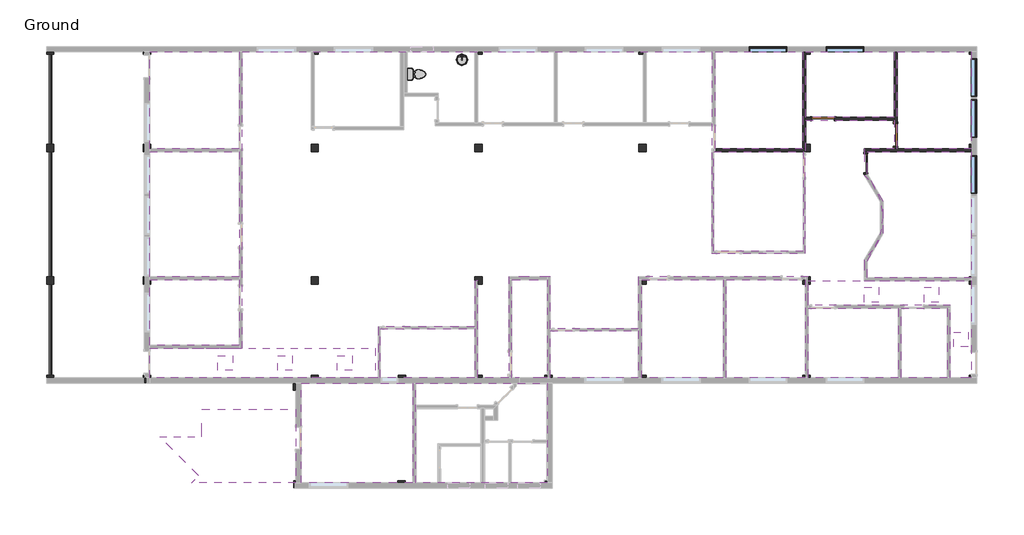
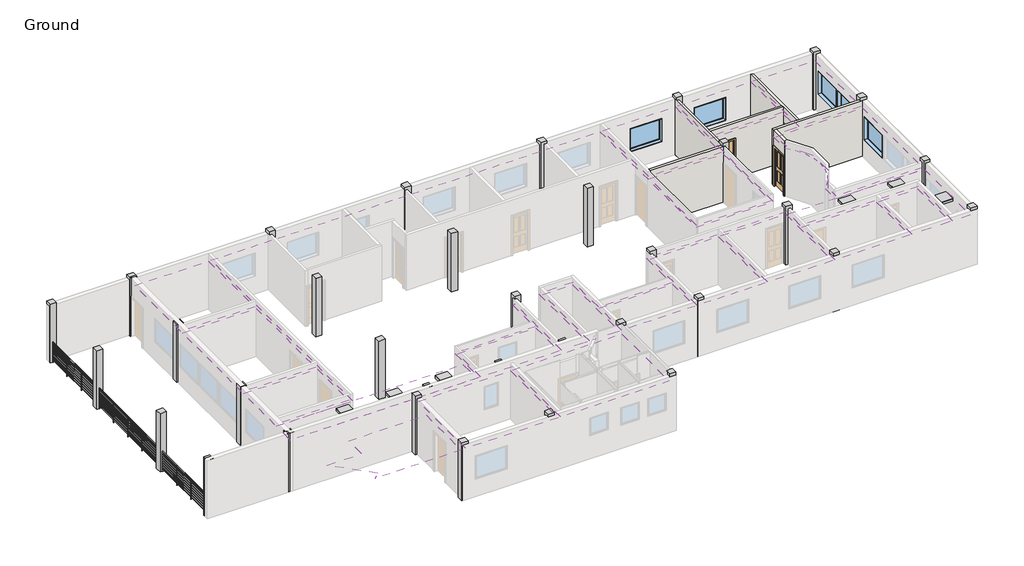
# One storey, part 4 of 4: 34 columns, 21 coverings, 6 light fixtures, 6 walls, 5 windows, 3 doors, 3 railings, 2 flow terminals.
"""IFC4 building model written with IfcOpenShell, lengths in millimetres."""

from ifc_helpers import new_model, si_unit, point, frame, frame_2d, origin, place, context, project, spatial, polyline, circle_curve, trimmed, segment, composite_curve, outline, extrude, faceted_brep, transform, mapped, element, save
from components import concrete_square_column_12_x_12_d780e21f, door_43f271b1, door_0f3f7c0c, door_bfc1a142, m_toilet_domestic_3d_m_toilet_domestic_3d_5cb52bd4, m_toilet_domestic_3d_m_toilet_domestic_3d_183bbd19, flow_terminal_5184717d, m_troffer_lens_0600_x_0600mm_2_lamp_a75f89fe, guardrail_pipe_4b02b070, guardrail_pipe_bb2e5a77, guardrail_pipe_0a43caf4, window_a0bf6c86

model = new_model("IFC4")

# Units and contexts
model_context = context("Model", 3, world=origin())
ifc_project = project(units=[si_unit("LENGTHUNIT", "METRE", prefix="MILLI")], contexts=[model_context])

# Site, building, storey
site = spatial("IfcSite", under=ifc_project)
building = spatial("IfcBuilding", under=site)
storey = spatial("IfcBuildingStorey", under=building, Name="Ground", Elevation=0.0)

# Columns
placement = place(None, origin())
concrete_square_column_12_x_12_shape = concrete_square_column_12_x_12_d780e21f(model_context)
element("IfcColumn", 1, ObjectType="Concrete-Square-Column : 12 x 12", at=placement, inside=storey, context=model_context, shape_type="MappedRepresentation", body=[
    mapped(concrete_square_column_12_x_12_shape, transform((-39928.402824, 22361.49779, 0.0), x_axis=(1.0, 0.0, 0.0), y_axis=(0.0, 1.0, 0.0), z_axis=(0.0, 0.0, 1.0))),
])
element("IfcColumn", 2, ObjectType="Concrete-Square-Column : 12 x 12", at=placement, inside=storey, context=model_context, shape_type="MappedRepresentation", body=[
    mapped(concrete_square_column_12_x_12_shape, transform((-33070.402824, 22361.49779, 0.0), x_axis=(1.0, 0.0, 0.0), y_axis=(0.0, 1.0, 0.0), z_axis=(0.0, 0.0, 1.0))),
])
element("IfcColumn", 3, ObjectType="Concrete-Square-Column : 12 x 12", at=placement, inside=storey, context=model_context, shape_type="MappedRepresentation", body=[
    mapped(concrete_square_column_12_x_12_shape, transform((-26364.802824, 22361.49779, 0.0), x_axis=(1.0, 0.0, 0.0), y_axis=(0.0, 1.0, 0.0), z_axis=(0.0, 0.0, 1.0))),
])
element("IfcColumn", 4, ObjectType="Concrete-Square-Column : 12 x 12", at=placement, inside=storey, context=model_context, shape_type="MappedRepresentation", body=[
    mapped(concrete_square_column_12_x_12_shape, transform((-19659.202824, 22361.49779, 0.0), x_axis=(1.0, 0.0, 0.0), y_axis=(0.0, 1.0, 0.0), z_axis=(0.0, 0.0, 1.0))),
])
element("IfcColumn", 5, ObjectType="Concrete-Square-Column : 12 x 12", at=placement, inside=storey, context=model_context, shape_type="MappedRepresentation", body=[
    mapped(concrete_square_column_12_x_12_shape, transform((-12953.602824, 22361.49779, 0.0), x_axis=(1.0, 0.0, 0.0), y_axis=(0.0, 1.0, 0.0), z_axis=(0.0, 0.0, 1.0))),
])
element("IfcColumn", 6, ObjectType="Concrete-Square-Column : 12 x 12", at=placement, inside=storey, context=model_context, shape_type="MappedRepresentation", body=[
    mapped(concrete_square_column_12_x_12_shape, transform((-6151.165324, 22361.49779, 0.0), x_axis=(1.0, 0.0, 0.0), y_axis=(0.0, 1.0, 0.0), z_axis=(0.0, 0.0, 1.0))),
])
element("IfcColumn", 7, ObjectType="Concrete-Square-Column : 12 x 12", at=placement, inside=storey, context=model_context, shape_type="MappedRepresentation", body=[
    mapped(concrete_square_column_12_x_12_shape, transform((-39928.402824, 18378.46029, 0.0), x_axis=(1.0, 0.0, 0.0), y_axis=(0.0, 1.0, 0.0), z_axis=(0.0, 0.0, 1.0))),
])
element("IfcColumn", 8, ObjectType="Concrete-Square-Column : 12 x 12", at=placement, inside=storey, context=model_context, shape_type="MappedRepresentation", body=[
    mapped(concrete_square_column_12_x_12_shape, transform((-39928.402824, 12965.08529, 0.0), x_axis=(1.0, 0.0, 0.0), y_axis=(0.0, 1.0, 0.0), z_axis=(0.0, 0.0, 1.0))),
])
element("IfcColumn", 9, ObjectType="Concrete-Square-Column : 12 x 12", at=placement, inside=storey, context=model_context, shape_type="MappedRepresentation", body=[
    mapped(concrete_square_column_12_x_12_shape, transform((-39928.402824, 8918.54779, 0.0), x_axis=(1.0, 0.0, 0.0), y_axis=(0.0, 1.0, 0.0), z_axis=(0.0, 0.0, 1.0))),
])
element("IfcColumn", 10, ObjectType="Concrete-Square-Column : 12 x 12", at=placement, inside=storey, context=model_context, shape_type="MappedRepresentation", body=[
    mapped(concrete_square_column_12_x_12_shape, transform((-33070.402824, 8918.54779, 0.0), x_axis=(1.0, 0.0, 0.0), y_axis=(0.0, 1.0, 0.0), z_axis=(0.0, 0.0, 1.0))),
])
element("IfcColumn", 11, ObjectType="Concrete-Square-Column : 12 x 12", at=placement, inside=storey, context=model_context, shape_type="MappedRepresentation", body=[
    mapped(concrete_square_column_12_x_12_shape, transform((-33070.402824, 12965.08529, 0.0), x_axis=(1.0, 0.0, 0.0), y_axis=(0.0, 1.0, 0.0), z_axis=(0.0, 0.0, 1.0))),
])
element("IfcColumn", 12, ObjectType="Concrete-Square-Column : 12 x 12", at=placement, inside=storey, context=model_context, shape_type="MappedRepresentation", body=[
    mapped(concrete_square_column_12_x_12_shape, transform((-26364.802824, 12965.08529, 0.0), x_axis=(1.0, 0.0, 0.0), y_axis=(0.0, 1.0, 0.0), z_axis=(0.0, 0.0, 1.0))),
])
element("IfcColumn", 13, ObjectType="Concrete-Square-Column : 12 x 12", at=placement, inside=storey, context=model_context, shape_type="MappedRepresentation", body=[
    mapped(concrete_square_column_12_x_12_shape, transform((-26364.802824, 8918.54779, 0.0), x_axis=(1.0, 0.0, 0.0), y_axis=(0.0, 1.0, 0.0), z_axis=(0.0, 0.0, 1.0))),
])
element("IfcColumn", 14, ObjectType="Concrete-Square-Column : 12 x 12", at=placement, inside=storey, context=model_context, shape_type="MappedRepresentation", body=[
    mapped(concrete_square_column_12_x_12_shape, transform((-19659.202824, 8918.54779, 0.0), x_axis=(1.0, 0.0, 0.0), y_axis=(0.0, 1.0, 0.0), z_axis=(0.0, 0.0, 1.0))),
])
element("IfcColumn", 15, ObjectType="Concrete-Square-Column : 12 x 12", at=placement, inside=storey, context=model_context, shape_type="MappedRepresentation", body=[
    mapped(concrete_square_column_12_x_12_shape, transform((-19659.202824, 12965.08529, 0.0), x_axis=(1.0, 0.0, 0.0), y_axis=(0.0, 1.0, 0.0), z_axis=(0.0, 0.0, 1.0))),
])
element("IfcColumn", 16, ObjectType="Concrete-Square-Column : 12 x 12", at=placement, inside=storey, context=model_context, shape_type="MappedRepresentation", body=[
    mapped(concrete_square_column_12_x_12_shape, transform((-12953.602824, 12965.08529, 0.0), x_axis=(1.0, 0.0, 0.0), y_axis=(0.0, 1.0, 0.0), z_axis=(0.0, 0.0, 1.0))),
])
element("IfcColumn", 17, ObjectType="Concrete-Square-Column : 12 x 12", at=placement, inside=storey, context=model_context, shape_type="MappedRepresentation", body=[
    mapped(concrete_square_column_12_x_12_shape, transform((-12953.602824, 8918.54779, 0.0), x_axis=(1.0, 0.0, 0.0), y_axis=(0.0, 1.0, 0.0), z_axis=(0.0, 0.0, 1.0))),
])
element("IfcColumn", 18, ObjectType="Concrete-Square-Column : 12 x 12", at=placement, inside=storey, context=model_context, shape_type="MappedRepresentation", body=[
    mapped(concrete_square_column_12_x_12_shape, transform((-6151.165324, 8918.54779, 0.0), x_axis=(1.0, 0.0, 0.0), y_axis=(0.0, 1.0, 0.0), z_axis=(0.0, 0.0, 1.0))),
])
element("IfcColumn", 19, ObjectType="Concrete-Square-Column : 12 x 12", at=placement, inside=storey, context=model_context, shape_type="MappedRepresentation", body=[
    mapped(concrete_square_column_12_x_12_shape, transform((-6151.165324, 12965.08529, 0.0), x_axis=(1.0, 0.0, 0.0), y_axis=(0.0, 1.0, 0.0), z_axis=(0.0, 0.0, 1.0))),
])
element("IfcColumn", 20, ObjectType="Concrete-Square-Column : 12 x 12", at=placement, inside=storey, context=model_context, shape_type="MappedRepresentation", body=[
    mapped(concrete_square_column_12_x_12_shape, transform((-6151.165324, 18378.46029, 0.0), x_axis=(1.0, 0.0, 0.0), y_axis=(0.0, 1.0, 0.0), z_axis=(0.0, 0.0, 1.0))),
])
element("IfcColumn", 21, ObjectType="Concrete-Square-Column : 12 x 12", at=placement, inside=storey, context=model_context, shape_type="MappedRepresentation", body=[
    mapped(concrete_square_column_12_x_12_shape, transform((-12953.602824, 18378.46029, 0.0), x_axis=(1.0, 0.0, 0.0), y_axis=(0.0, 1.0, 0.0), z_axis=(0.0, 0.0, 1.0))),
])
element("IfcColumn", 22, ObjectType="Concrete-Square-Column : 12 x 12", at=placement, inside=storey, context=model_context, shape_type="MappedRepresentation", body=[
    mapped(concrete_square_column_12_x_12_shape, transform((-19659.202824, 18378.46029, 0.0), x_axis=(1.0, 0.0, 0.0), y_axis=(0.0, 1.0, 0.0), z_axis=(0.0, 0.0, 1.0))),
])
element("IfcColumn", 23, ObjectType="Concrete-Square-Column : 12 x 12", at=placement, inside=storey, context=model_context, shape_type="MappedRepresentation", body=[
    mapped(concrete_square_column_12_x_12_shape, transform((-26364.802824, 18378.46029, 0.0), x_axis=(1.0, 0.0, 0.0), y_axis=(0.0, 1.0, 0.0), z_axis=(0.0, 0.0, 1.0))),
])
element("IfcColumn", 24, ObjectType="Concrete-Square-Column : 12 x 12", at=placement, inside=storey, context=model_context, shape_type="MappedRepresentation", body=[
    mapped(concrete_square_column_12_x_12_shape, transform((-33070.402824, 18378.46029, 0.0), x_axis=(1.0, 0.0, 0.0), y_axis=(0.0, 1.0, 0.0), z_axis=(0.0, 0.0, 1.0))),
])
element("IfcColumn", 25, ObjectType="Concrete-Square-Column : 12 x 12", at=placement, inside=storey, context=model_context, shape_type="MappedRepresentation", body=[
    mapped(concrete_square_column_12_x_12_shape, transform((-43890.802824, 8918.54779, 0.0), x_axis=(1.0, 0.0, 0.0), y_axis=(0.0, 1.0, 0.0), z_axis=(0.0, 0.0, 1.0))),
])
element("IfcColumn", 26, ObjectType="Concrete-Square-Column : 12 x 12", at=placement, inside=storey, context=model_context, shape_type="MappedRepresentation", body=[
    mapped(concrete_square_column_12_x_12_shape, transform((-43890.802824, 12965.08529, 0.0), x_axis=(1.0, 0.0, 0.0), y_axis=(0.0, 1.0, 0.0), z_axis=(0.0, 0.0, 1.0))),
])
element("IfcColumn", 27, ObjectType="Concrete-Square-Column : 12 x 12", at=placement, inside=storey, context=model_context, shape_type="MappedRepresentation", body=[
    mapped(concrete_square_column_12_x_12_shape, transform((-43890.802824, 18378.46029, 0.0), x_axis=(1.0, 0.0, 0.0), y_axis=(0.0, 1.0, 0.0), z_axis=(0.0, 0.0, 1.0))),
])
element("IfcColumn", 28, ObjectType="Concrete-Square-Column : 12 x 12", at=placement, inside=storey, context=model_context, shape_type="MappedRepresentation", body=[
    mapped(concrete_square_column_12_x_12_shape, transform((-43890.802824, 22361.49779, 0.0), x_axis=(1.0, 0.0, 0.0), y_axis=(0.0, 1.0, 0.0), z_axis=(0.0, 0.0, 1.0))),
])
element("IfcColumn", 29, ObjectType="Concrete-Square-Column : 12 x 12", at=placement, inside=storey, context=model_context, shape_type="MappedRepresentation", body=[
    mapped(concrete_square_column_12_x_12_shape, transform((-23512.065324, 8918.54779, 0.0), x_axis=(1.0, 0.0, 0.0), y_axis=(0.0, 1.0, 0.0), z_axis=(0.0, 0.0, 1.0))),
])
element("IfcColumn", 30, ObjectType="Concrete-Square-Column : 12 x 12", at=placement, inside=storey, context=model_context, shape_type="MappedRepresentation", body=[
    mapped(concrete_square_column_12_x_12_shape, transform((-23512.065324, 4621.18529, 0.0), x_axis=(1.0, 0.0, 0.0), y_axis=(0.0, 1.0, 0.0), z_axis=(0.0, 0.0, 1.0))),
])
element("IfcColumn", 31, ObjectType="Concrete-Square-Column : 12 x 12", at=placement, inside=storey, context=model_context, shape_type="MappedRepresentation", body=[
    mapped(concrete_square_column_12_x_12_shape, transform((-29508.052824, 8918.54779, 0.0), x_axis=(1.0, 0.0, 0.0), y_axis=(0.0, 1.0, 0.0), z_axis=(0.0, 0.0, 1.0))),
])
element("IfcColumn", 32, ObjectType="Concrete-Square-Column : 12 x 12", at=placement, inside=storey, context=model_context, shape_type="MappedRepresentation", body=[
    mapped(concrete_square_column_12_x_12_shape, transform((-33791.127824, 8613.74779, 0.0), x_axis=(1.0, 0.0, 0.0), y_axis=(0.0, 1.0, 0.0), z_axis=(0.0, 0.0, 1.0))),
])
element("IfcColumn", 33, ObjectType="Concrete-Square-Column : 12 x 12", at=placement, inside=storey, context=model_context, shape_type="MappedRepresentation", body=[
    mapped(concrete_square_column_12_x_12_shape, transform((-29516.8878988, 4621.18529, 0.0), x_axis=(1.0, 0.0, 0.0), y_axis=(0.0, 1.0, 0.0), z_axis=(0.0, 0.0, 1.0))),
])
element("IfcColumn", 34, ObjectType="Concrete-Square-Column : 12 x 12", at=placement, inside=storey, context=model_context, shape_type="MappedRepresentation", body=[
    mapped(concrete_square_column_12_x_12_shape, transform((-33784.0878988, 4621.18529, 0.0), x_axis=(1.0, 0.0, 0.0), y_axis=(0.0, 1.0, 0.0), z_axis=(0.0, 0.0, 1.0))),
])

# Coverings
element("IfcCovering", 35, ObjectType="2' x 4' ACT System", at=placement, inside=storey, context=model_context, shape_type="SweptSolid", body=[
    extrude(outline(polyline([(-39818.865324, 18349.88529), (-39818.865324, 22307.52279), (-36166.027824, 22307.52279), (-36166.027824, 18349.88529), (-39818.865324, 18349.88529)])), frame((0.0, 0.0, 2514.6), z_axis=(0.0, 0.0, 1.0), x_axis=(1.0, 0.0, 0.0)), (0.0, 0.0, 1.0), 57.15),
])
element("IfcCovering", 36, ObjectType="2' x 4' ACT System", at=placement, inside=storey, context=model_context, shape_type="SweptSolid", body=[
    extrude(outline(polyline([(-36166.027824, 13117.48529), (-39818.865324, 13117.48529), (-39818.865324, 18226.06029), (-36166.027824, 18226.06029), (-36166.027824, 13117.48529)])), frame((0.0, 0.0, 2514.6), z_axis=(0.0, 0.0, 1.0), x_axis=(1.0, 0.0, 0.0)), (0.0, 0.0, 1.0), 57.15),
])
element("IfcCovering", 37, ObjectType="2' x 4' ACT System", at=placement, inside=storey, context=model_context, shape_type="SweptSolid", body=[
    extrude(outline(polyline([(-36166.027824, 10304.9644567), (-39818.865324, 10304.9644567), (-39818.865324, 12993.66029), (-36166.027824, 12993.66029), (-36166.027824, 10304.9644567)])), frame((0.0, 0.0, 2514.6), z_axis=(0.0, 0.0, 1.0), x_axis=(1.0, 0.0, 0.0)), (0.0, 0.0, 1.0), 57.15),
])
element("IfcCovering", 38, ObjectType="2' x 4' ACT System", at=placement, inside=storey, context=model_context, shape_type="SweptSolid", body=[
    extrude(outline(polyline([(-16688.990324, 22307.52279), (-13106.002824, 22307.52279), (-13106.002824, 18343.53529), (-16688.990324, 18343.53529), (-16688.990324, 22307.52279)])), frame((0.0, 0.0, 2514.6), z_axis=(0.0, 0.0, 1.0), x_axis=(1.0, 0.0, 0.0)), (0.0, 0.0, 1.0), 57.15),
])
element("IfcCovering", 39, ObjectType="2' x 4' ACT System", at=placement, inside=storey, context=model_context, shape_type="SweptSolid", body=[
    extrude(outline(polyline([(-12982.177824, 22307.52279), (-9372.202824, 22307.52279), (-9372.202824, 19632.58529), (-12982.177824, 19632.58529), (-12982.177824, 22307.52279)])), frame((0.0, 0.0, 2514.6), z_axis=(0.0, 0.0, 1.0), x_axis=(1.0, 0.0, 0.0)), (0.0, 0.0, 1.0), 57.15),
])
element("IfcCovering", 40, ObjectType="2' x 4' ACT System", at=placement, inside=storey, context=model_context, shape_type="SweptSolid", body=[
    extrude(outline(polyline([(-9248.377824, 22307.52279), (-6205.140324, 22307.52279), (-6205.140324, 18343.53529), (-9248.377824, 18343.53529), (-9248.377824, 22307.52279)])), frame((0.0, 0.0, 2514.6), z_axis=(0.0, 0.0, 1.0), x_axis=(1.0, 0.0, 0.0)), (0.0, 0.0, 1.0), 57.15),
])
element("IfcCovering", 41, ObjectType="2' x 4' ACT System", at=placement, inside=storey, context=model_context, shape_type="SweptSolid", body=[
    extrude(outline(composite_curve([segment(polyline([(-10467.577824, 18219.71029), (-6205.140324, 18219.71029), (-6205.140324, 13073.03529), (-10467.577824, 13073.03529), (-10467.577824, 13753.2813276)]), True, "CONTINUOUS"), segment(trimmed(circle_curve(frame_2d((-12218.244142, 15538.42279)), 2500.3125), [point((-10467.577824, 13753.2813276))], [point((-10467.577824, 17323.5642525))], True, "CARTESIAN"), True, "CONTINUOUS"), segment(polyline([(-10467.577824, 17323.5642525), (-10467.577824, 18219.71029)]), True, "CONTINUOUS")], self_intersect=False)), frame((0.0, 0.0, 2514.6), z_axis=(0.0, 0.0, 1.0), x_axis=(1.0, 0.0, 0.0)), (0.0, 0.0, 1.0), 57.15),
])
element("IfcCovering", 42, ObjectType="2' x 4' ACT System", at=placement, inside=storey, context=model_context, shape_type="SweptSolid", body=[
    extrude(outline(polyline([(-16741.377824, 14150.94779), (-16741.377824, 18219.71029), (-13083.777824, 18219.71029), (-13083.777824, 14150.94779), (-16741.377824, 14150.94779)])), frame((0.0, 0.0, 2514.6), z_axis=(0.0, 0.0, 1.0), x_axis=(1.0, 0.0, 0.0)), (0.0, 0.0, 1.0), 57.15),
])
element("IfcCovering", 43, ObjectType="2' x 4' ACT System", at=placement, inside=storey, context=model_context, shape_type="SweptSolid", body=[
    extrude(outline(polyline([(-16231.790324, 12993.66029), (-13015.515324, 12993.66029), (-13015.515324, 8972.52279), (-16231.790324, 8972.52279), (-16231.790324, 12993.66029)])), frame((0.0, 0.0, 2514.6), z_axis=(0.0, 0.0, 1.0), x_axis=(1.0, 0.0, 0.0)), (0.0, 0.0, 1.0), 57.15),
])
element("IfcCovering", 44, ObjectType="2' x 4' ACT System", at=placement, inside=storey, context=model_context, shape_type="SweptSolid", body=[
    extrude(outline(polyline([(-19703.652824, 12993.66029), (-16355.615324, 12993.66029), (-16355.615324, 8972.52279), (-19703.652824, 8972.52279), (-19703.652824, 12993.66029)])), frame((0.0, 0.0, 2514.6), z_axis=(0.0, 0.0, 1.0), x_axis=(1.0, 0.0, 0.0)), (0.0, 0.0, 1.0), 57.15),
])
element("IfcCovering", 45, ObjectType="2' x 4' ACT System", at=placement, inside=storey, context=model_context, shape_type="SweptSolid", body=[
    extrude(outline(polyline([(-9207.102824, 8972.52279), (-12891.690324, 8972.52279), (-12891.690324, 11818.91029), (-9207.102824, 11818.91029), (-9207.102824, 8972.52279)])), frame((0.0, 0.0, 2514.6), z_axis=(0.0, 0.0, 1.0), x_axis=(1.0, 0.0, 0.0)), (0.0, 0.0, 1.0), 57.15),
])
element("IfcCovering", 46, ObjectType="2' x 4' ACT System", at=placement, inside=storey, context=model_context, shape_type="SweptSolid", body=[
    extrude(outline(polyline([(-7195.740324, 8972.52279), (-9083.277824, 8972.52279), (-9083.277824, 11818.91029), (-7195.740324, 11818.91029), (-7195.740324, 8972.52279)])), frame((0.0, 0.0, 2514.6), z_axis=(0.0, 0.0, 1.0), x_axis=(1.0, 0.0, 0.0)), (0.0, 0.0, 1.0), 57.15),
])
element("IfcCovering", 47, ObjectType="2' x 4' ACT System", at=placement, inside=storey, context=model_context, shape_type="SweptSolid", body=[
    extrude(outline(polyline([(-23432.690324, 10894.98529), (-19827.477824, 10894.98529), (-19827.477824, 8972.52279), (-23432.690324, 8972.52279), (-23432.690324, 10894.98529)])), frame((0.0, 0.0, 2514.6), z_axis=(0.0, 0.0, 1.0), x_axis=(1.0, 0.0, 0.0)), (0.0, 0.0, 1.0), 57.15),
])
element("IfcCovering", 48, ObjectType="2' x 4' ACT System", at=placement, inside=storey, context=model_context, shape_type="SweptSolid", body=[
    extrude(outline(polyline([(-25020.190324, 12993.66029), (-23556.515324, 12993.66029), (-23556.515324, 8972.52279), (-24701.102824, 8972.52279), (-25020.190324, 8972.52279), (-25020.190324, 12993.66029)])), frame((0.0, 0.0, 2514.6), z_axis=(0.0, 0.0, 1.0), x_axis=(1.0, 0.0, 0.0)), (0.0, 0.0, 1.0), 57.15),
])
element("IfcCovering", 49, ObjectType="2' x 4' ACT System", at=placement, inside=storey, context=model_context, shape_type="SweptSolid", body=[
    extrude(outline(polyline([(-30397.052824, 10987.06029), (-26533.077824, 10987.06029), (-26533.077824, 8972.52279), (-30397.052824, 8972.52279), (-30397.052824, 10987.06029)])), frame((0.0, 0.0, 2514.6), z_axis=(0.0, 0.0, 1.0), x_axis=(1.0, 0.0, 0.0)), (0.0, 0.0, 1.0), 57.15),
])
element("IfcCovering", 50, ObjectType="2' x 4' ACT System", at=placement, inside=storey, context=model_context, shape_type="SweptSolid", body=[
    extrude(outline(polyline([(-29065.140324, 8753.44779), (-29065.140324, 4675.16029), (-33632.377824, 4675.16029), (-33632.377824, 8753.44779), (-29065.140324, 8753.44779)])), frame((0.0, 0.0, 2514.6), z_axis=(0.0, 0.0, 1.0), x_axis=(1.0, 0.0, 0.0)), (0.0, 0.0, 1.0), 57.15),
])
element("IfcCovering", 51, ObjectType="2' x 4' ACT System", at=placement, inside=storey, context=model_context, shape_type="SweptSolid", body=[
    extrude(outline(polyline([(-33853.040324, 7686.64779), (-33853.040324, 4675.16029), (-38096.1227235, 4675.16029), (-37812.8000173, 4958.4829962), (-39418.5074722, 6564.1904511), (-37685.265324, 6564.1904511), (-37685.265324, 7686.64779), (-33853.040324, 7686.64779)])), frame((0.0, 0.0, 2514.6), z_axis=(0.0, 0.0, 1.0), x_axis=(1.0, 0.0, 0.0)), (0.0, 0.0, 1.0), 57.15),
])
element("IfcCovering", 52, ObjectType="2' x 4' ACT System", at=placement, inside=storey, context=model_context, shape_type="SweptSolid", body=[
    extrude(outline(polyline([(-12891.690324, 12949.21029), (-6205.140324, 12949.21029), (-6205.140324, 8972.52279), (-7071.915324, 8972.52279), (-7071.915324, 11942.73529), (-12891.690324, 11942.73529), (-12891.690324, 12949.21029)]), holes=[polyline([(-9992.2426179, 12673.77904), (-10592.2426179, 12673.77904), (-10592.2426179, 12073.77904), (-9992.2426179, 12073.77904), (-9992.2426179, 12673.77904)]), polyline([(-7544.2426179, 12673.77904), (-8144.2426179, 12673.77904), (-8144.2426179, 12073.77904), (-7544.2426179, 12073.77904), (-7544.2426179, 12673.77904)]), polyline([(-6334.6426179, 10844.97904), (-6934.6426179, 10844.97904), (-6934.6426179, 10244.97904), (-6334.6426179, 10244.97904), (-6334.6426179, 10844.97904)])]), frame((0.0, 0.0, 2514.6), z_axis=(0.0, 0.0, 1.0), x_axis=(1.0, 0.0, 0.0)), (0.0, 0.0, 1.0), 57.15),
])
element("IfcCovering", 53, ObjectType="2' x 4' ACT System", at=placement, inside=storey, context=model_context, shape_type="SweptSolid", body=[
    extrude(outline(polyline([(-30589.140324, 10181.1394567), (-30589.140324, 8972.52279), (-39818.865324, 8972.52279), (-39818.865324, 10181.1394567), (-30589.140324, 10181.1394567)]), holes=[polyline([(-33981.627824, 9877.32279), (-34581.627824, 9877.32279), (-34581.627824, 9277.32279), (-33981.627824, 9277.32279), (-33981.627824, 9877.32279)]), polyline([(-31543.227824, 9877.32279), (-32143.227824, 9877.32279), (-32143.227824, 9277.32279), (-31543.227824, 9277.32279), (-31543.227824, 9877.32279)]), polyline([(-36432.802824, 9881.5561234), (-37032.802824, 9881.5561234), (-37032.802824, 9281.5561234), (-36432.802824, 9281.5561234), (-36432.802824, 9881.5561234)])]), frame((0.0, 0.0, 2514.6), z_axis=(0.0, 0.0, 1.0), x_axis=(1.0, 0.0, 0.0)), (0.0, 0.0, 1.0), 57.15),
])
element("IfcCovering", 54, ObjectType="2' x 4' ACT System", at=placement, inside=storey, context=model_context, shape_type="SweptSolid", body=[
    extrude(outline(polyline([(-23566.040324, 8753.44779), (-23566.040324, 4675.16029), (-28941.315324, 4675.16029), (-28941.315324, 8753.44779), (-23566.040324, 8753.44779)])), frame((0.0, 0.0, 2514.6), z_axis=(0.0, 0.0, 1.0), x_axis=(1.0, 0.0, 0.0)), (0.0, 0.0, 1.0), 57.15),
])
element("IfcCovering", 55, ObjectType="2' x 4' ACT System", at=placement, inside=storey, context=model_context, shape_type="SweptSolid", body=[
    extrude(outline(composite_curve([segment(polyline([(-30476.427824, 8972.52279), (-39818.865324, 8972.52279), (-39818.865324, 10181.1394567), (-36042.202824, 10181.1394567), (-36042.202824, 22307.52279), (-16820.752824, 22307.52279), (-16820.752824, 14071.57279), (-13004.402824, 14071.57279), (-13004.402824, 18281.62279), (-12982.177824, 18281.62279), (-12982.177824, 19508.76029), (-9372.202824, 19508.76029), (-9372.202824, 18343.53529), (-10591.402824, 18343.53529), (-10591.402824, 17270.785386)]), True, "CONTINUOUS"), segment(trimmed(circle_curve(frame_2d((-12218.244142, 15538.42279)), 2376.4875), [point((-10591.402824, 17270.785386))], [point((-10591.402824, 13806.060194))], False, "CARTESIAN"), True, "CONTINUOUS"), segment(polyline([(-10591.402824, 13806.060194), (-10591.402824, 12949.21029), (-6205.140324, 12949.21029), (-6205.140324, 8972.52279), (-7071.915324, 8972.52279), (-7071.915324, 11942.73529), (-12891.690324, 11942.73529), (-12891.690324, 13117.48529), (-19827.477824, 13117.48529), (-19827.477824, 10974.36029), (-23432.690324, 10974.36029), (-23432.690324, 13117.48529), (-25144.015324, 13117.48529), (-25144.015324, 8972.52279), (-26409.252824, 8972.52279), (-26409.252824, 12947.62279), (-26533.077824, 12947.62279), (-26533.077824, 11066.43529), (-30476.427824, 11066.43529), (-30476.427824, 8972.52279)]), True, "CONTINUOUS")], self_intersect=False)), frame((0.0, 0.0, 2514.6), z_axis=(0.0, 0.0, 1.0), x_axis=(1.0, 0.0, 0.0)), (0.0, 0.0, 1.0), 57.15),
])

# Doors
door_shape = door_43f271b1(model_context)
element("IfcDoor", 56, ObjectType="Single-Flush : 36\" x 80\" - D1", at=placement, inside=storey, context=model_context, shape_type="MappedRepresentation", body=[
    mapped(door_shape, transform((-9310.290324, 18910.27279, 0.0), x_axis=(0.0, -1.0, 0.0), y_axis=(1.0, 0.0, 0.0), z_axis=(0.0, 0.0, 1.0))),
])
door_2_shape = door_0f3f7c0c(model_context)
element("IfcDoor", 57, ObjectType="Single-Flush : 36\" x 80\" - D1", at=placement, inside=storey, context=model_context, shape_type="MappedRepresentation", body=[
    mapped(door_2_shape, transform((-12274.152824, 19570.67279, 0.0), x_axis=(-1.0, 0.0, 0.0), y_axis=(0.0, -1.0, 0.0), z_axis=(0.0, 0.0, 1.0))),
])
door_3_shape = door_bfc1a142(model_context)
element("IfcDoor", 58, ObjectType="Single-Glass 3 : 30\" x 80\" - D3", at=placement, inside=storey, context=model_context, shape_type="MappedRepresentation", body=[
    mapped(door_3_shape, transform((-10529.490324, 17754.57279, 0.0), x_axis=(0.0, 1.0, 0.0), y_axis=(-1.0, 0.0, 0.0), z_axis=(0.0, 0.0, 1.0))),
])

# Flow terminals
m_toilet_domestic_3d_m_toilet_domestic_3d_shape = m_toilet_domestic_3d_m_toilet_domestic_3d_5cb52bd4(model_context)
m_toilet_domestic_3d_m_toilet_domestic_3d_2_shape = m_toilet_domestic_3d_m_toilet_domestic_3d_183bbd19(model_context)
element("IfcFlowTerminal", 59, ObjectType="M_Toilet-Domestic-3D : M_Toilet-Domestic-3D", at=placement, inside=storey, context=model_context, shape_type="MappedRepresentation", body=[
    mapped(m_toilet_domestic_3d_m_toilet_domestic_3d_shape, transform((-28830.190324, 21393.12279, 0.0), x_axis=(0.0, 1.0, 0.0), y_axis=(-1.0, 0.0, 0.0), z_axis=(0.0, 0.0, 1.0))),
    mapped(m_toilet_domestic_3d_m_toilet_domestic_3d_2_shape, transform((-28830.190324, 21393.12279, 0.0), x_axis=(0.0, 1.0, 0.0), y_axis=(-1.0, 0.0, 0.0), z_axis=(0.0, 0.0, 1.0))),
])
flow_terminal_shape = flow_terminal_5184717d(model_context)
element("IfcFlowTerminal", 60, ObjectType="Sink Vanity-Round : 19\" x 19\"", at=placement, inside=storey, context=model_context, shape_type="MappedRepresentation", body=[
    mapped(flow_terminal_shape, transform((-27147.2545646, 21903.5734981, 0.0), x_axis=(1.0, 0.0, 0.0), y_axis=(0.0, 1.0, 0.0), z_axis=(0.0, 0.0, 1.0))),
])

# Light fixtures
m_troffer_lens_0600_x_0600mm_2_lamp_shape = m_troffer_lens_0600_x_0600mm_2_lamp_a75f89fe(model_context)
element("IfcLightFixture", 61, ObjectType="M_Troffer - Lens : 0600 x 0600mm (2 Lamp)", at=placement, inside=storey, context=model_context, shape_type="MappedRepresentation", body=[
    mapped(m_troffer_lens_0600_x_0600mm_2_lamp_shape, transform((-34262.9243225, 9636.7887221, 76.2), x_axis=(1.0, 0.0, 0.0), y_axis=(0.0, 1.0, 0.0), z_axis=(0.0, 0.0, 1.0))),
])
element("IfcLightFixture", 62, ObjectType="M_Troffer - Lens : 0600 x 0600mm (2 Lamp)", at=placement, inside=storey, context=model_context, shape_type="MappedRepresentation", body=[
    mapped(m_troffer_lens_0600_x_0600mm_2_lamp_shape, transform((-31824.5243225, 9636.7887221, 76.2), x_axis=(1.0, 0.0, 0.0), y_axis=(0.0, 1.0, 0.0), z_axis=(0.0, 0.0, 1.0))),
])
element("IfcLightFixture", 63, ObjectType="M_Troffer - Lens : 0600 x 0600mm (2 Lamp)", at=placement, inside=storey, context=model_context, shape_type="MappedRepresentation", body=[
    mapped(m_troffer_lens_0600_x_0600mm_2_lamp_shape, transform((-36714.0993225, 9641.0220555, 76.2), x_axis=(1.0, 0.0, 0.0), y_axis=(0.0, 1.0, 0.0), z_axis=(0.0, 0.0, 1.0))),
])
element("IfcLightFixture", 64, ObjectType="M_Troffer - Lens : 0600 x 0600mm (2 Lamp)", at=placement, inside=storey, context=model_context, shape_type="MappedRepresentation", body=[
    mapped(m_troffer_lens_0600_x_0600mm_2_lamp_shape, transform((-10273.5391163, 12433.2449721, 76.2), x_axis=(1.0, 0.0, 0.0), y_axis=(0.0, 1.0, 0.0), z_axis=(0.0, 0.0, 1.0))),
])
element("IfcLightFixture", 65, ObjectType="M_Troffer - Lens : 0600 x 0600mm (2 Lamp)", at=placement, inside=storey, context=model_context, shape_type="MappedRepresentation", body=[
    mapped(m_troffer_lens_0600_x_0600mm_2_lamp_shape, transform((-7825.5391163, 12433.2449721, 76.2), x_axis=(1.0, 0.0, 0.0), y_axis=(0.0, 1.0, 0.0), z_axis=(0.0, 0.0, 1.0))),
])
element("IfcLightFixture", 66, ObjectType="M_Troffer - Lens : 0600 x 0600mm (2 Lamp)", at=placement, inside=storey, context=model_context, shape_type="MappedRepresentation", body=[
    mapped(m_troffer_lens_0600_x_0600mm_2_lamp_shape, transform((-6615.9391163, 10604.4449721, 76.2), x_axis=(1.0, 0.0, 0.0), y_axis=(0.0, 1.0, 0.0), z_axis=(0.0, 0.0, 1.0))),
])

# Railings
guardrail_pipe_shape = guardrail_pipe_4b02b070(model_context)
element("IfcRailing", 67, ObjectType="Guardrail - Pipe", at=placement, inside=storey, context=model_context, shape_type="MappedRepresentation", body=[
    mapped(guardrail_pipe_shape, transform((0.0, 0.0, 0.0), x_axis=(1.0, 0.0, 0.0), y_axis=(0.0, 1.0, 0.0), z_axis=(0.0, 0.0, 1.0))),
])
guardrail_pipe_2_shape = guardrail_pipe_bb2e5a77(model_context)
element("IfcRailing", 68, ObjectType="Guardrail - Pipe", at=placement, inside=storey, context=model_context, shape_type="MappedRepresentation", body=[
    mapped(guardrail_pipe_2_shape, transform((0.0, 0.0, 0.0), x_axis=(1.0, 0.0, 0.0), y_axis=(0.0, 1.0, 0.0), z_axis=(0.0, 0.0, 1.0))),
])
guardrail_pipe_3_shape = guardrail_pipe_0a43caf4(model_context)
element("IfcRailing", 69, ObjectType="Guardrail - Pipe", at=placement, inside=storey, context=model_context, shape_type="MappedRepresentation", body=[
    mapped(guardrail_pipe_3_shape, transform((0.0, 0.0, 0.0), x_axis=(1.0, 0.0, 0.0), y_axis=(0.0, 1.0, 0.0), z_axis=(0.0, 0.0, 1.0))),
])

# Walls
element("IfcWall", 70, ObjectType="Interior - 5 1/2\" Partition (1-hr)", at=placement, inside=storey, context=model_context, shape_type="Brep", body=[
    faceted_brep([(-6205.140324, 18343.53529, 0.0), (-9248.377824, 18343.53529, 0.0), (-9372.202824, 18343.53529, 0.0), (-10591.402824, 18343.53529, 0.0), (-10591.402824, 18343.53529, 2895.6), (-9372.202824, 18343.53529, 2895.6), (-9248.377824, 18343.53529, 2895.6), (-6205.140324, 18343.53529, 2895.6), (-6205.140324, 18219.71029, 0.0), (-6205.140324, 18219.71029, 2895.6), (-10467.577824, 18219.71029, 2895.6), (-10591.402824, 18219.71029, 2895.6), (-10591.402824, 18219.71029, 0.0), (-10467.577824, 18219.71029, 0.0)], [[[0, 1, 2, 3, 4, 5, 6, 7]], [[8, 9, 10, 11, 12, 13]], [[3, 2, 1, 0, 8, 13, 12]], [[7, 6, 5, 4, 11, 10, 9]], [[4, 3, 12, 11]], [[0, 7, 9, 8]]]),
])
element("IfcWall", 71, ObjectType="Interior - 5 1/2\" Partition (1-hr)", at=placement, inside=storey, context=model_context, shape_type="Brep", body=[
    faceted_brep([(-12982.177824, 18343.53529, 0.0), (-13106.002824, 18343.53529, 0.0), (-16688.990324, 18343.53529, 0.0), (-16688.990324, 18343.53529, 2895.6), (-13106.002824, 18343.53529, 2895.6), (-12982.177824, 18343.53529, 2895.6), (-12982.177824, 18219.71029, 0.0), (-12982.177824, 18219.71029, 2895.6), (-13004.402824, 18219.71029, 2895.6), (-13083.777824, 18219.71029, 2895.6), (-16688.990324, 18219.71029, 2895.6), (-16688.990324, 18219.71029, 0.0), (-13083.777824, 18219.71029, 0.0), (-13004.402824, 18219.71029, 0.0)], [[[0, 1, 2, 3, 4, 5]], [[6, 7, 8, 9, 10, 11, 12, 13]], [[2, 1, 0, 6, 13, 12, 11]], [[5, 4, 3, 10, 9, 8, 7]], [[0, 5, 7, 6]], [[3, 2, 11, 10]]]),
])
element("IfcWall", 72, ObjectType="Interior - 5 1/2\" Partition (1-hr)", at=placement, inside=storey, context=model_context, shape_type="Brep", body=[
    faceted_brep([(-9248.377824, 18343.53529, 0.0), (-9248.377824, 18453.07279, 0.0), (-9248.377824, 18453.07279, 2032.0), (-9248.377824, 19367.47279, 2032.0), (-9248.377824, 19367.47279, 0.0), (-9248.377824, 22307.52279, 0.0), (-9248.377824, 22307.52279, 2895.6), (-9248.377824, 18343.53529, 2895.6), (-9372.202824, 18453.07279, 2032.0), (-9372.202824, 18453.07279, 0.0), (-9372.202824, 18343.53529, 0.0), (-9372.202824, 18343.53529, 2895.6), (-9372.202824, 19508.76029, 2895.6), (-9372.202824, 19632.58529, 2895.6), (-9372.202824, 22307.52279, 2895.6), (-9372.202824, 22307.52279, 0.0), (-9372.202824, 19632.58529, 0.0), (-9372.202824, 19508.76029, 0.0), (-9372.202824, 19367.47279, 0.0), (-9372.202824, 19367.47279, 2032.0)], [[[0, 1, 2, 3, 4, 5, 6, 7]], [[8, 9, 10, 11, 12, 13, 14, 15, 16, 17, 18, 19]], [[10, 9, 1, 0]], [[18, 17, 16, 15, 5, 4]], [[7, 6, 14, 13, 12, 11]], [[6, 5, 15, 14]], [[0, 7, 11, 10]], [[2, 1, 9, 8]], [[3, 2, 8, 19]], [[4, 3, 19, 18]]]),
])
element("IfcWall", 73, ObjectType="Interior - 5 1/2\" Partition (1-hr)", at=placement, inside=storey, context=model_context, shape_type="SweptSolid", body=[
    extrude(outline(polyline([(0.0, -12982.177824), (0.0, -12731.352824), (2032.0, -12731.352824), (2032.0, -11816.952824), (0.0, -11816.952824), (0.0, -9372.202824), (2895.6, -9372.202824), (2895.6, -12982.177824), (0.0, -12982.177824)])), frame((0.0, 19508.76029, 0.0), z_axis=(0.0, 1.0, 0.0), x_axis=(0.0, 0.0, 1.0)), (0.0, 0.0, 1.0), 123.825),
])
element("IfcWall", 74, ObjectType="Interior - 5 1/2\" Partition (1-hr)", at=placement, inside=storey, context=model_context, shape_type="Brep", body=[
    faceted_brep([(-12982.177824, 18343.53529, 0.0), (-12982.177824, 19508.76029, 0.0), (-12982.177824, 19632.58529, 0.0), (-12982.177824, 22307.52279, 0.0), (-12982.177824, 22307.52279, 2895.6), (-12982.177824, 19632.58529, 2895.6), (-12982.177824, 19508.76029, 2895.6), (-12982.177824, 18343.53529, 2895.6), (-13106.002824, 18343.53529, 0.0), (-13106.002824, 18343.53529, 2895.6), (-13106.002824, 22307.52279, 2895.6), (-13106.002824, 22307.52279, 0.0)], [[[0, 1, 2, 3, 4, 5, 6, 7]], [[8, 9, 10, 11]], [[3, 2, 1, 0, 8, 11]], [[7, 6, 5, 4, 10, 9]], [[0, 7, 9, 8]], [[4, 3, 11, 10]]]),
])
element("IfcWall", 75, ObjectType="Interior - 5 1/2\" Partition (1-hr)", at=placement, inside=storey, context=model_context, shape_type="Brep", body=[
    faceted_brep([(-10591.402824, 18219.71029, 0.0), (-10591.402824, 18135.4487735, 0.0), (-10591.402824, 18135.4487735, 2032.0), (-10591.402824, 17373.4487735, 2032.0), (-10591.402824, 17373.4487735, 0.0), (-10591.402824, 17270.785386, 0.0), (-10591.402824, 17270.785386, 2895.6), (-10591.402824, 18219.71029, 2895.6), (-10467.577824, 18135.4487735, 2032.0), (-10467.577824, 18135.4487735, 0.0), (-10467.577824, 18219.71029, 0.0), (-10467.577824, 18219.71029, 2895.6), (-10467.577824, 17323.5642525, 2895.6), (-10467.577824, 17323.5642525, 0.0), (-10467.577824, 17373.4487735, 0.0), (-10467.577824, 17373.4487735, 2032.0)], [[[0, 1, 2, 3, 4, 5, 6, 7]], [[8, 9, 10, 11, 12, 13, 14, 15]], [[10, 9, 1, 0]], [[14, 13, 5, 4]], [[7, 6, 12, 11]], [[6, 5, 13, 12]], [[0, 7, 11, 10]], [[2, 1, 9, 8]], [[3, 2, 8, 15]], [[4, 3, 15, 14]]]),
])

# Windows
window_shape = window_a0bf6c86(model_context)
element("IfcWindow", 76, ObjectType="Fixed : 60\" x 48\" - W1", at=placement, inside=storey, context=model_context, shape_type="MappedRepresentation", body=[
    mapped(window_shape, transform((-14490.302824, 22417.06029, 0.0), x_axis=(1.0, 0.0, 0.0), y_axis=(0.0, 1.0, 0.0), z_axis=(0.0, 0.0, 1.0))),
])
element("IfcWindow", 77, ObjectType="Fixed : 60\" x 48\" - W1", at=placement, inside=storey, context=model_context, shape_type="MappedRepresentation", body=[
    mapped(window_shape, transform((-11340.702824, 22417.06029, 0.0), x_axis=(1.0, 0.0, 0.0), y_axis=(0.0, 1.0, 0.0), z_axis=(0.0, 0.0, 1.0))),
])
element("IfcWindow", 78, ObjectType="Fixed : 60\" x 48\" - W1", at=placement, inside=storey, context=model_context, shape_type="MappedRepresentation", body=[
    mapped(window_shape, transform((-6095.602824, 21215.32279, 0.0), x_axis=(0.0, -0.9999999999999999, 0.0), y_axis=(0.9999999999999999, 0.0, 0.0), z_axis=(0.0, 0.0, 1.0))),
])
element("IfcWindow", 79, ObjectType="Fixed : 60\" x 48\" - W1", at=placement, inside=storey, context=model_context, shape_type="MappedRepresentation", body=[
    mapped(window_shape, transform((-6095.602824, 19538.92279, 0.0), x_axis=(0.0, -0.9999999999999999, 0.0), y_axis=(0.9999999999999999, 0.0, 0.0), z_axis=(0.0, 0.0, 1.0))),
])
element("IfcWindow", 80, ObjectType="Fixed : 60\" x 48\" - W1", at=placement, inside=storey, context=model_context, shape_type="MappedRepresentation", body=[
    mapped(window_shape, transform((-6095.602824, 17252.92279, 0.0), x_axis=(0.0, -0.9999999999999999, 0.0), y_axis=(0.9999999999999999, 0.0, 0.0), z_axis=(0.0, 0.0, 1.0))),
])

save(model, "model.ifc")
